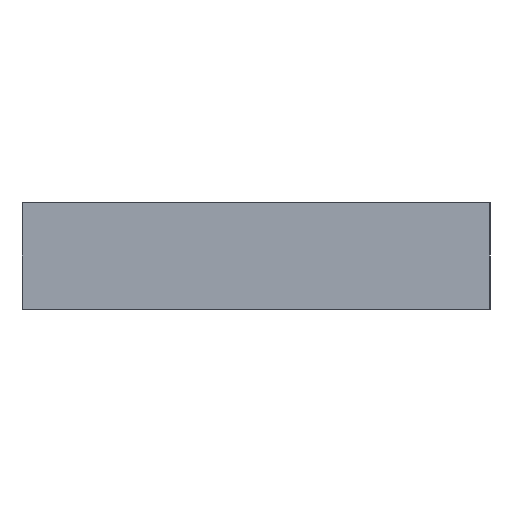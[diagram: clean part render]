
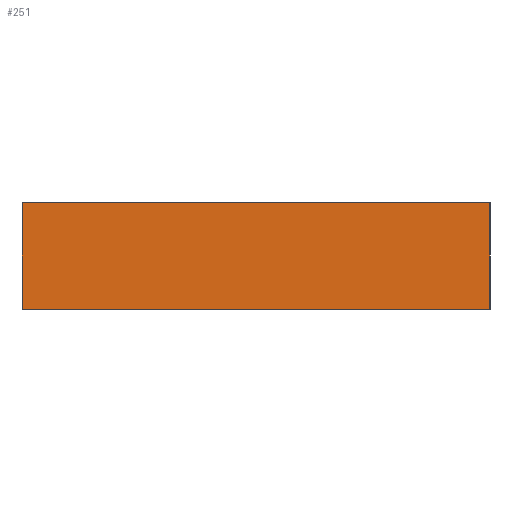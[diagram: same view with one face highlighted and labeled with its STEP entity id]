
A CAD part, left-side view. The second image highlights one B-rep face of the part: STEP entity #251.
In plain terms, the highlighted planar face has unit normal (-1, 0, 0).
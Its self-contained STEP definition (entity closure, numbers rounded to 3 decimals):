
#157 = EDGE_CURVE( '', #347, #177, #407, .T. );
#159 = VERTEX_POINT( '', #409 );
#177 = VERTEX_POINT( '', #429 );
#233 = EDGE_CURVE( '', #159, #299, #488, .T. );
#251 = ADVANCED_FACE( '', ( #511 ), #512, .T. );
#259 = EDGE_CURVE( '', #159, #347, #520, .T. );
#299 = VERTEX_POINT( '', #566 );
#309 = EDGE_CURVE( '', #299, #177, #576, .T. );
#347 = VERTEX_POINT( '', #621 );
#407 = LINE( '', #676, #677 );
#409 = CARTESIAN_POINT( '', ( -20., 0., 3.75 ) );
#429 = CARTESIAN_POINT( '', ( -20., -33., -3.75 ) );
#488 = LINE( '', #793, #794 );
#511 = FACE_OUTER_BOUND( '', #820, .T. );
#512 = PLANE( '', #821 );
#520 = LINE( '', #831, #832 );
#566 = CARTESIAN_POINT( '', ( -20., -33., 3.75 ) );
#576 = LINE( '', #899, #900 );
#621 = CARTESIAN_POINT( '', ( -20., 0., -3.75 ) );
#676 = CARTESIAN_POINT( '', ( -20., 0., -3.75 ) );
#677 = VECTOR( '', #1033, 1. );
#793 = CARTESIAN_POINT( '', ( -20., 0., 3.75 ) );
#794 = VECTOR( '', #1117, 1. );
#820 = EDGE_LOOP( '', ( #1151, #1152, #1153, #1154 ) );
#821 = AXIS2_PLACEMENT_3D( '', #1155, #1156, #1157 );
#831 = CARTESIAN_POINT( '', ( -20., 0., 3.75 ) );
#832 = VECTOR( '', #1161, 1. );
#899 = CARTESIAN_POINT( '', ( -20., -33., 3.75 ) );
#900 = VECTOR( '', #1223, 1. );
#1033 = DIRECTION( '', ( 0., -1., 0. ) );
#1117 = DIRECTION( '', ( 0., -1., 0. ) );
#1151 = ORIENTED_EDGE( '', *, *, #157, .T. );
#1152 = ORIENTED_EDGE( '', *, *, #309, .F. );
#1153 = ORIENTED_EDGE( '', *, *, #233, .F. );
#1154 = ORIENTED_EDGE( '', *, *, #259, .T. );
#1155 = CARTESIAN_POINT( '', ( -20., 0., 3.75 ) );
#1156 = DIRECTION( '', ( -1., 0., 0. ) );
#1157 = DIRECTION( '', ( 0., 1., 0. ) );
#1161 = DIRECTION( '', ( 0., 0., -1. ) );
#1223 = DIRECTION( '', ( 0., 0., -1. ) );
